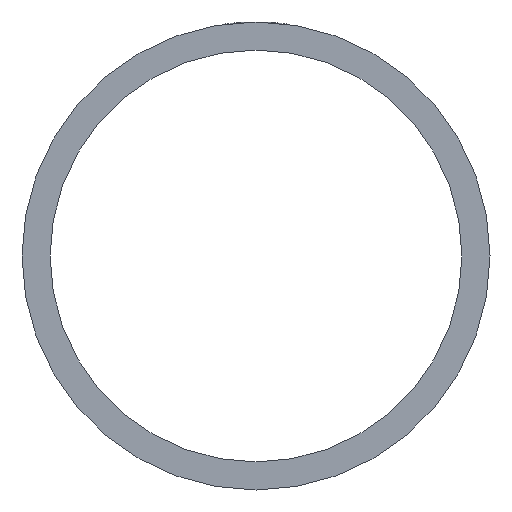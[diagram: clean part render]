
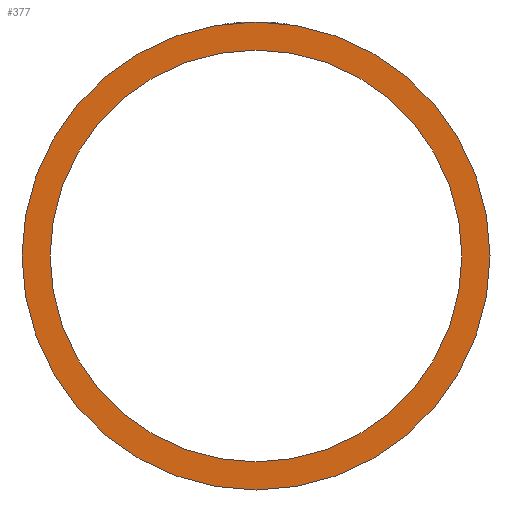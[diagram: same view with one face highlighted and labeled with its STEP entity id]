
A CAD part, front view. The second image highlights one B-rep face of the part: STEP entity #377.
In plain terms, the highlighted planar face has unit normal (0, -1, 0).
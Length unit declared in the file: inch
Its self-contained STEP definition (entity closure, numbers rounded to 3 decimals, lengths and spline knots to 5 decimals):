
#2 = AXIS2_PLACEMENT_3D ( 'NONE', #148, #145, #121 ) ;
#6 = AXIS2_PLACEMENT_3D ( 'NONE', #140, #134, #141 ) ;
#26 = EDGE_CURVE ( 'NONE', #473, #441, #446, .T. ) ;
#27 = AXIS2_PLACEMENT_3D ( 'NONE', #306, #278, #296 ) ;
#31 = EDGE_CURVE ( 'NONE', #453, #462, #445, .T. ) ;
#38 = AXIS2_PLACEMENT_3D ( 'NONE', #253, #272, #262 ) ;
#39 = AXIS2_PLACEMENT_3D ( 'NONE', #249, #240, #228 ) ;
#40 = EDGE_CURVE ( 'NONE', #441, #473, #451, .T. ) ;
#53 = EDGE_CURVE ( 'NONE', #462, #453, #470, .T. ) ;
#115 = PLANE ( 'NONE',  #6 ) ;
#121 = DIRECTION ( 'NONE',  ( 0., 0., 1. ) ) ;
#130 = CARTESIAN_POINT ( 'NONE',  ( 0., 0., -1. ) ) ;
#134 = DIRECTION ( 'NONE',  ( 0., 1., 0. ) ) ;
#140 = CARTESIAN_POINT ( 'NONE',  ( 0., 0., 0. ) ) ;
#141 = DIRECTION ( 'NONE',  ( 0., 0., 1. ) ) ;
#145 = DIRECTION ( 'NONE',  ( 0., 1., 0. ) ) ;
#148 = CARTESIAN_POINT ( 'NONE',  ( 0., 0., 0. ) ) ;
#176 = CARTESIAN_POINT ( 'NONE',  ( 0., 0., 0.88 ) ) ;
#190 = CARTESIAN_POINT ( 'NONE',  ( 0., 0., 1. ) ) ;
#197 = CARTESIAN_POINT ( 'NONE',  ( 0., 0., -0.88 ) ) ;
#228 = DIRECTION ( 'NONE',  ( 0., 0., 1. ) ) ;
#240 = DIRECTION ( 'NONE',  ( 0., 1., 0. ) ) ;
#249 = CARTESIAN_POINT ( 'NONE',  ( 0., 0., 0. ) ) ;
#253 = CARTESIAN_POINT ( 'NONE',  ( 0., 0., 0. ) ) ;
#262 = DIRECTION ( 'NONE',  ( 1., 0., 0. ) ) ;
#272 = DIRECTION ( 'NONE',  ( 0., 1., 0. ) ) ;
#278 = DIRECTION ( 'NONE',  ( 0., 1., 0. ) ) ;
#296 = DIRECTION ( 'NONE',  ( 1., 0., 0. ) ) ;
#306 = CARTESIAN_POINT ( 'NONE',  ( 0., 0., 0. ) ) ;
#310 = ORIENTED_EDGE ( 'NONE', *, *, #31, .F. ) ;
#315 = ORIENTED_EDGE ( 'NONE', *, *, #53, .F. ) ;
#319 = ORIENTED_EDGE ( 'NONE', *, *, #40, .T. ) ;
#321 = EDGE_LOOP ( 'NONE', ( #315, #310 ) ) ;
#326 = ORIENTED_EDGE ( 'NONE', *, *, #26, .T. ) ;
#343 = EDGE_LOOP ( 'NONE', ( #326, #319 ) ) ;
#377 = ADVANCED_FACE ( 'NONE', ( #471, #488 ), #115, .F. ) ;
#441 = VERTEX_POINT ( 'NONE', #176 ) ;
#445 = CIRCLE ( 'NONE', #39, 1. ) ;
#446 = CIRCLE ( 'NONE', #38, 0.88 ) ;
#451 = CIRCLE ( 'NONE', #27, 0.88 ) ;
#453 = VERTEX_POINT ( 'NONE', #190 ) ;
#462 = VERTEX_POINT ( 'NONE', #130 ) ;
#470 = CIRCLE ( 'NONE', #2, 1. ) ;
#471 = FACE_OUTER_BOUND ( 'NONE', #321, .T. ) ;
#473 = VERTEX_POINT ( 'NONE', #197 ) ;
#488 = FACE_BOUND ( 'NONE', #343, .T. ) ;
